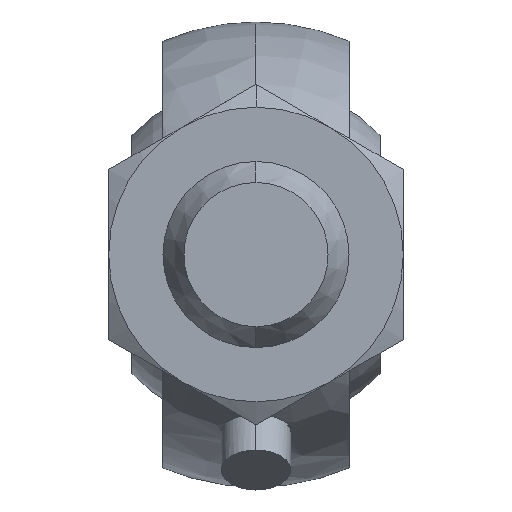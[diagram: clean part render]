
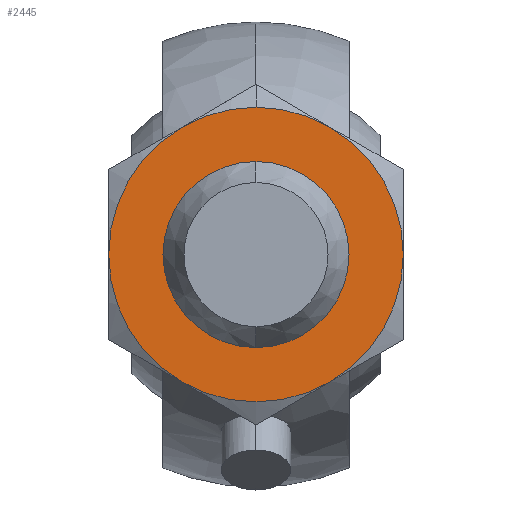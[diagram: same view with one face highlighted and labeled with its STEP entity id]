
A CAD part, front view. The second image highlights one B-rep face of the part: STEP entity #2445.
In plain terms, the highlighted planar face has unit normal (0, -1, 0) as drawn and (0, 0, 1) by its records, which use the part's own axes.
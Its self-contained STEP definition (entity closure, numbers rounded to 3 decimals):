
#29 = CIRCLE ( 'NONE', #2443, 6. ) ;
#63 = ORIENTED_EDGE ( 'NONE', *, *, #967, .F. ) ;
#105 = FACE_BOUND ( 'NONE', #2359, .T. ) ;
#183 = DIRECTION ( 'NONE',  ( 0., 1., 0. ) ) ;
#185 = DIRECTION ( 'NONE',  ( 0., 0., -1. ) ) ;
#205 = AXIS2_PLACEMENT_3D ( 'NONE', #2038, #766, #2265 ) ;
#224 = EDGE_CURVE ( 'NONE', #1678, #1214, #2760, .T. ) ;
#225 = CARTESIAN_POINT ( 'NONE',  ( 0., 0., 7. ) ) ;
#270 = ORIENTED_EDGE ( 'NONE', *, *, #2482, .F. ) ;
#334 = ORIENTED_EDGE ( 'NONE', *, *, #2449, .F. ) ;
#353 = DIRECTION ( 'NONE',  ( 0., 0., -1. ) ) ;
#371 = EDGE_CURVE ( 'NONE', #721, #1678, #927, .T. ) ;
#376 = DIRECTION ( 'NONE',  ( 0., 0., -1. ) ) ;
#403 = CIRCLE ( 'NONE', #1235, 9.5 ) ;
#445 = DIRECTION ( 'NONE',  ( 1., 0., 0. ) ) ;
#507 = VERTEX_POINT ( 'NONE', #1644 ) ;
#612 = VERTEX_POINT ( 'NONE', #1446 ) ;
#673 = EDGE_CURVE ( 'NONE', #1591, #721, #732, .T. ) ;
#690 = FACE_OUTER_BOUND ( 'NONE', #2784, .T. ) ;
#704 = CARTESIAN_POINT ( 'NONE',  ( 0., 0., 7. ) ) ;
#721 = VERTEX_POINT ( 'NONE', #2362 ) ;
#732 = CIRCLE ( 'NONE', #2082, 9.5 ) ;
#766 = DIRECTION ( 'NONE',  ( 0., 0., -1. ) ) ;
#776 = DIRECTION ( 'NONE',  ( 0., 0., -1. ) ) ;
#809 = CARTESIAN_POINT ( 'NONE',  ( 0., 0., 7. ) ) ;
#920 = DIRECTION ( 'NONE',  ( 0., 1., 0. ) ) ;
#927 = CIRCLE ( 'NONE', #205, 9.5 ) ;
#967 = EDGE_CURVE ( 'NONE', #507, #1591, #2032, .T. ) ;
#980 = CARTESIAN_POINT ( 'NONE',  ( -6., 0., 7. ) ) ;
#1028 = DIRECTION ( 'NONE',  ( 1., 0., 0. ) ) ;
#1214 = VERTEX_POINT ( 'NONE', #1774 ) ;
#1230 = DIRECTION ( 'NONE',  ( 0., 0., -1. ) ) ;
#1235 = AXIS2_PLACEMENT_3D ( 'NONE', #2050, #776, #2276 ) ;
#1244 = ORIENTED_EDGE ( 'NONE', *, *, #2730, .F. ) ;
#1248 = ORIENTED_EDGE ( 'NONE', *, *, #371, .F. ) ;
#1321 = AXIS2_PLACEMENT_3D ( 'NONE', #1668, #376, #1883 ) ;
#1360 = VERTEX_POINT ( 'NONE', #2051 ) ;
#1436 = CARTESIAN_POINT ( 'NONE',  ( 9.614, -9.614, 7. ) ) ;
#1446 = CARTESIAN_POINT ( 'NONE',  ( -4.75, 8.227, 7. ) ) ;
#1449 = ORIENTED_EDGE ( 'NONE', *, *, #224, .F. ) ;
#1470 = EDGE_CURVE ( 'NONE', #612, #507, #1629, .T. ) ;
#1480 = DIRECTION ( 'NONE',  ( 0., 0., -1. ) ) ;
#1486 = CARTESIAN_POINT ( 'NONE',  ( 0., 0., 7. ) ) ;
#1591 = VERTEX_POINT ( 'NONE', #2393 ) ;
#1629 = CIRCLE ( 'NONE', #1974, 9.5 ) ;
#1644 = CARTESIAN_POINT ( 'NONE',  ( 0., 9.5, 7. ) ) ;
#1668 = CARTESIAN_POINT ( 'NONE',  ( 0., 0., 7. ) ) ;
#1678 = VERTEX_POINT ( 'NONE', #2682 ) ;
#1698 = DIRECTION ( 'NONE',  ( 0., 1., 0. ) ) ;
#1733 = AXIS2_PLACEMENT_3D ( 'NONE', #225, #1740, #445 ) ;
#1740 = DIRECTION ( 'NONE',  ( 0., 0., 1. ) ) ;
#1759 = CIRCLE ( 'NONE', #2008, 9.5 ) ;
#1774 = CARTESIAN_POINT ( 'NONE',  ( -4.75, -8.227, 7. ) ) ;
#1825 = ORIENTED_EDGE ( 'NONE', *, *, #2158, .F. ) ;
#1841 = PLANE ( 'NONE',  #2147 ) ;
#1870 = DIRECTION ( 'NONE',  ( -1., 0., 0. ) ) ;
#1883 = DIRECTION ( 'NONE',  ( 0., 1., 0. ) ) ;
#1967 = CARTESIAN_POINT ( 'NONE',  ( -9.5, 0., 7. ) ) ;
#1974 = AXIS2_PLACEMENT_3D ( 'NONE', #1486, #185, #1698 ) ;
#1998 = AXIS2_PLACEMENT_3D ( 'NONE', #704, #2206, #920 ) ;
#1999 = ORIENTED_EDGE ( 'NONE', *, *, #673, .F. ) ;
#2008 = AXIS2_PLACEMENT_3D ( 'NONE', #2506, #1230, #2725 ) ;
#2032 = CIRCLE ( 'NONE', #1321, 9.5 ) ;
#2038 = CARTESIAN_POINT ( 'NONE',  ( 0., 0., 7. ) ) ;
#2050 = CARTESIAN_POINT ( 'NONE',  ( 0., 0., 7. ) ) ;
#2051 = CARTESIAN_POINT ( 'NONE',  ( 6., 0., 7. ) ) ;
#2082 = AXIS2_PLACEMENT_3D ( 'NONE', #2762, #1480, #183 ) ;
#2147 = AXIS2_PLACEMENT_3D ( 'NONE', #1436, #353, #1870 ) ;
#2158 = EDGE_CURVE ( 'NONE', #1360, #2763, #2592, .T. ) ;
#2206 = DIRECTION ( 'NONE',  ( 0., 0., -1. ) ) ;
#2233 = VERTEX_POINT ( 'NONE', #1967 ) ;
#2265 = DIRECTION ( 'NONE',  ( 0., 1., 0. ) ) ;
#2276 = DIRECTION ( 'NONE',  ( 0., 1., 0. ) ) ;
#2312 = DIRECTION ( 'NONE',  ( 0., 0., 1. ) ) ;
#2359 = EDGE_LOOP ( 'NONE', ( #1825, #270 ) ) ;
#2362 = CARTESIAN_POINT ( 'NONE',  ( 9.5, 0., 7. ) ) ;
#2393 = CARTESIAN_POINT ( 'NONE',  ( 4.75, 8.227, 7. ) ) ;
#2443 = AXIS2_PLACEMENT_3D ( 'NONE', #809, #2312, #1028 ) ;
#2445 = ADVANCED_FACE ( 'NONE', ( #105, #690 ), #1841, .F. ) ;
#2449 = EDGE_CURVE ( 'NONE', #2233, #612, #1759, .T. ) ;
#2482 = EDGE_CURVE ( 'NONE', #2763, #1360, #29, .T. ) ;
#2506 = CARTESIAN_POINT ( 'NONE',  ( 0., 0., 7. ) ) ;
#2592 = CIRCLE ( 'NONE', #1733, 6. ) ;
#2682 = CARTESIAN_POINT ( 'NONE',  ( 4.75, -8.227, 7. ) ) ;
#2725 = DIRECTION ( 'NONE',  ( 0., 1., 0. ) ) ;
#2730 = EDGE_CURVE ( 'NONE', #1214, #2233, #403, .T. ) ;
#2760 = CIRCLE ( 'NONE', #1998, 9.5 ) ;
#2762 = CARTESIAN_POINT ( 'NONE',  ( 0., 0., 7. ) ) ;
#2763 = VERTEX_POINT ( 'NONE', #980 ) ;
#2783 = ORIENTED_EDGE ( 'NONE', *, *, #1470, .F. ) ;
#2784 = EDGE_LOOP ( 'NONE', ( #1244, #1449, #1248, #1999, #63, #2783, #334 ) ) ;
